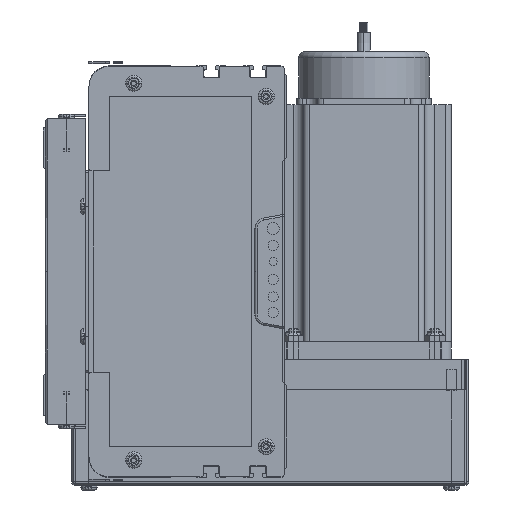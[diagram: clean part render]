
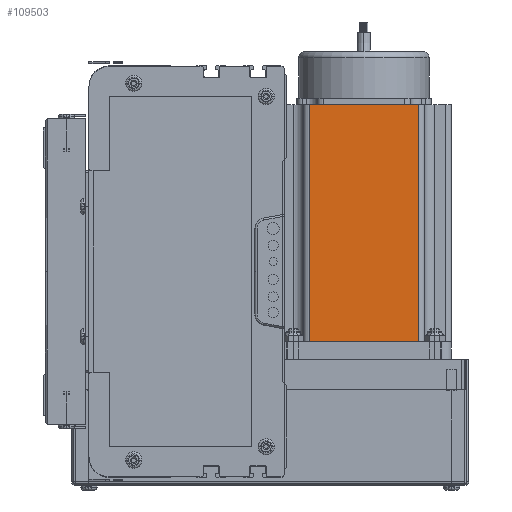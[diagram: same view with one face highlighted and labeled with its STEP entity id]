
A CAD part, left-side view. The second image highlights one B-rep face of the part: STEP entity #109503.
In plain terms, the highlighted planar face has unit normal (-1, 0, 0) as drawn and (0, -1, 0) by its records, which use the part's own axes.
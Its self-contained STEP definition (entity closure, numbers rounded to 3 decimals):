
#109434 = VERTEX_POINT ( 'NONE', #153999 ) ;
#109435 = EDGE_CURVE ( 'NONE', #109445, #109434, #154062, .T. ) ;
#109436 = VERTEX_POINT ( 'NONE', #154195 ) ;
#109445 = VERTEX_POINT ( 'NONE', #154336 ) ;
#109446 = EDGE_CURVE ( 'NONE', #109436, #109467, #154321, .T. ) ;
#109447 = EDGE_LOOP ( 'NONE', ( #109523, #109455, #109450, #109453 ) ) ;
#109450 = ORIENTED_EDGE ( 'NONE', *, *, #109485, .F. ) ;
#109453 = ORIENTED_EDGE ( 'NONE', *, *, #109435, .T. ) ;
#109455 = ORIENTED_EDGE ( 'NONE', *, *, #109446, .T. ) ;
#109467 = VERTEX_POINT ( 'NONE', #154462 ) ;
#109485 = EDGE_CURVE ( 'NONE', #109445, #109467, #154361, .T. ) ;
#109501 = EDGE_CURVE ( 'NONE', #109434, #109436, #154580, .T. ) ;
#109503 = ADVANCED_FACE ( 'NONE', ( #154534 ), #154564, .F. ) ;
#109523 = ORIENTED_EDGE ( 'NONE', *, *, #109501, .T. ) ;
#151840 = DIRECTION ( 'NONE',  ( 0., 0., 1. ) ) ;
#153999 = CARTESIAN_POINT ( 'NONE',  ( 16.16, 0., 0. ) ) ;
#154062 = LINE ( 'NONE', #154188, #154184 ) ;
#154181 = DIRECTION ( 'NONE',  ( 0., 0., -1. ) ) ;
#154184 = VECTOR ( 'NONE', #154181, 1000. ) ;
#154188 = CARTESIAN_POINT ( 'NONE',  ( 16.16, 0., 116.5 ) ) ;
#154195 = CARTESIAN_POINT ( 'NONE',  ( 69.74, 0., 0. ) ) ;
#154303 = DIRECTION ( 'NONE',  ( 0., 0., 1. ) ) ;
#154305 = VECTOR ( 'NONE', #154303, 1000. ) ;
#154320 = CARTESIAN_POINT ( 'NONE',  ( 69.74, 0., 116.5 ) ) ;
#154321 = LINE ( 'NONE', #154320, #154305 ) ;
#154336 = CARTESIAN_POINT ( 'NONE',  ( 16.16, 0., 116.5 ) ) ;
#154360 = CARTESIAN_POINT ( 'NONE',  ( 0., 0., 116.5 ) ) ;
#154361 = LINE ( 'NONE', #154360, #154384 ) ;
#154381 = DIRECTION ( 'NONE',  ( 1., 0., 0. ) ) ;
#154384 = VECTOR ( 'NONE', #154381, 1000. ) ;
#154462 = CARTESIAN_POINT ( 'NONE',  ( 69.74, 0., 116.5 ) ) ;
#154497 = DIRECTION ( 'NONE',  ( 0., 1., 0. ) ) ;
#154499 = CARTESIAN_POINT ( 'NONE',  ( 0., 0., 116.5 ) ) ;
#154534 = FACE_OUTER_BOUND ( 'NONE', #109447, .T. ) ;
#154540 = DIRECTION ( 'NONE',  ( 1., 0., 0. ) ) ;
#154564 = PLANE ( 'NONE',  #154568 ) ;
#154568 = AXIS2_PLACEMENT_3D ( 'NONE', #154499, #154497, #151840 ) ;
#154577 = CARTESIAN_POINT ( 'NONE',  ( 0., 0., 0. ) ) ;
#154580 = LINE ( 'NONE', #154577, #154585 ) ;
#154585 = VECTOR ( 'NONE', #154540, 1000. ) ;
